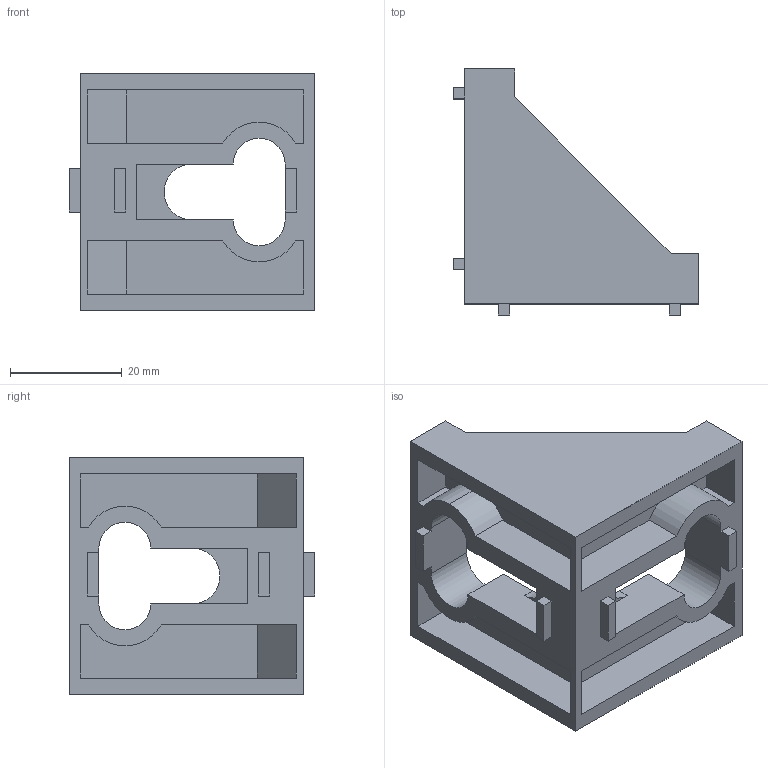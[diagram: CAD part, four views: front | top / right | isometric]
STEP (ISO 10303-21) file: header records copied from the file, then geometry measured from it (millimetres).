
FILE_DESCRIPTION (( 'STEP AP203' ), '1' );
FILE_NAME ('55－CE-RA4545-8.STEP', '2015-07-07T06:49:20', ( '' ), ( '' ), 'SwSTEP 2.0', 'SolidWorks 2013', '' );
FILE_SCHEMA (( 'CONFIG_CONTROL_DESIGN' ));
Length unit declared in the file: millimetre
Products named in the file (1): 55－CE-RA4545-8
Bounding box: 44 x 44 x 42.5 mm (x, y, z)
Volume: 17781.6 mm3; surface area: 12862.9 mm2
Topology: 1 solids, 1 shells, 76 faces, 204 edges, 136 vertices
Faces by surface type: plane 64, cylinder 12
Entity records: 2437 total; most frequent: CARTESIAN_POINT 417, ORIENTED_EDGE 408, DIRECTION 382, EDGE_CURVE 204, VECTOR 180, LINE 180, VERTEX_POINT 136, AXIS2_PLACEMENT_3D 101
